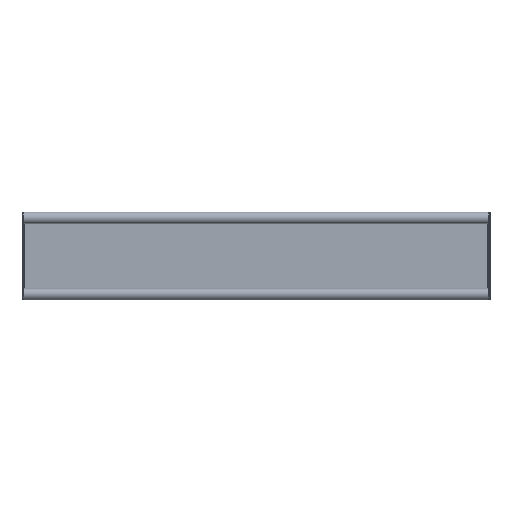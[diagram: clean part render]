
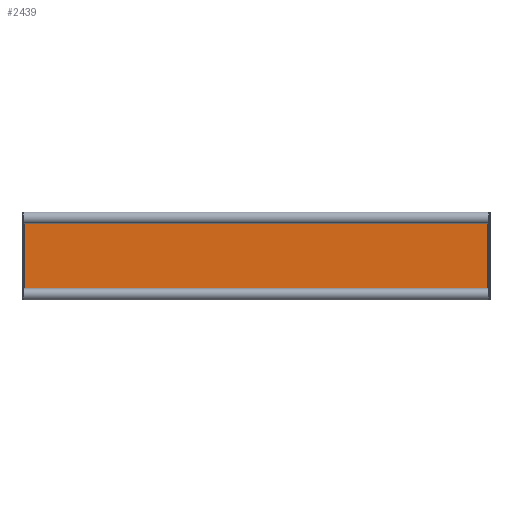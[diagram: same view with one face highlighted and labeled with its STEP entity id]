
A CAD part, front view. The second image highlights one B-rep face of the part: STEP entity #2439.
In plain terms, the highlighted planar face has unit normal (0, -1, 0).
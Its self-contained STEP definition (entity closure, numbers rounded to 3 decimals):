
#39 = EDGE_CURVE ( 'NONE', #6878, #5518, #8147, .T. ) ;
#139 = CARTESIAN_POINT ( 'NONE',  ( -399., -2., 71. ) ) ;
#283 = VERTEX_POINT ( 'NONE', #4285 ) ;
#846 = DIRECTION ( 'NONE',  ( 0., 0., 1. ) ) ;
#855 = VERTEX_POINT ( 'NONE', #9023 ) ;
#911 = ORIENTED_EDGE ( 'NONE', *, *, #1706, .F. ) ;
#993 = AXIS2_PLACEMENT_3D ( 'NONE', #8359, #7620, #3098 ) ;
#1052 = FACE_OUTER_BOUND ( 'NONE', #7715, .T. ) ;
#1397 = CARTESIAN_POINT ( 'NONE',  ( -399., -2., -71. ) ) ;
#1571 = CARTESIAN_POINT ( 'NONE',  ( 396., -2., -74. ) ) ;
#1704 = EDGE_CURVE ( 'NONE', #6878, #9325, #3245, .T. ) ;
#1706 = EDGE_CURVE ( 'NONE', #283, #855, #7721, .T. ) ;
#1805 = AXIS2_PLACEMENT_3D ( 'NONE', #3442, #7080, #2029 ) ;
#2029 = DIRECTION ( 'NONE',  ( 0., 0., 1. ) ) ;
#2207 = ORIENTED_EDGE ( 'NONE', *, *, #7883, .F. ) ;
#2216 = ORIENTED_EDGE ( 'NONE', *, *, #7757, .T. ) ;
#2439 = ADVANCED_FACE ( 'NONE', ( #1052 ), #6873, .F. ) ;
#2449 = DIRECTION ( 'NONE',  ( 1., 0., 0. ) ) ;
#2588 = VECTOR ( 'NONE', #6841, 1000. ) ;
#2776 = ORIENTED_EDGE ( 'NONE', *, *, #9316, .F. ) ;
#2829 = CARTESIAN_POINT ( 'NONE',  ( 396., -2., 70. ) ) ;
#2978 = CARTESIAN_POINT ( 'NONE',  ( 399., -2., 74. ) ) ;
#3098 = DIRECTION ( 'NONE',  ( 0., 0., 1. ) ) ;
#3120 = EDGE_CURVE ( 'NONE', #7272, #9325, #6781, .T. ) ;
#3210 = VECTOR ( 'NONE', #2449, 1000. ) ;
#3245 = LINE ( 'NONE', #1571, #6150 ) ;
#3442 = CARTESIAN_POINT ( 'NONE',  ( -399., -2., -74. ) ) ;
#3510 = CIRCLE ( 'NONE', #1805, 5. ) ;
#3555 = VERTEX_POINT ( 'NONE', #8644 ) ;
#3603 = DIRECTION ( 'NONE',  ( 0., 0., 1. ) ) ;
#3804 = CARTESIAN_POINT ( 'NONE',  ( 395., -2., 71. ) ) ;
#3880 = CARTESIAN_POINT ( 'NONE',  ( 395., -2., -71. ) ) ;
#4038 = AXIS2_PLACEMENT_3D ( 'NONE', #9676, #5909, #4947 ) ;
#4275 = AXIS2_PLACEMENT_3D ( 'NONE', #2978, #5103, #3603 ) ;
#4285 = CARTESIAN_POINT ( 'NONE',  ( -396., -2., 70. ) ) ;
#4898 = CARTESIAN_POINT ( 'NONE',  ( -395., -2., -71. ) ) ;
#4947 = DIRECTION ( 'NONE',  ( 0., 0., 1. ) ) ;
#5103 = DIRECTION ( 'NONE',  ( 0., -1., 0. ) ) ;
#5424 = CARTESIAN_POINT ( 'NONE',  ( -399., -2., 74. ) ) ;
#5518 = VERTEX_POINT ( 'NONE', #3880 ) ;
#5909 = DIRECTION ( 'NONE',  ( 0., -1., 0. ) ) ;
#6150 = VECTOR ( 'NONE', #6920, 1000. ) ;
#6209 = ORIENTED_EDGE ( 'NONE', *, *, #8199, .F. ) ;
#6530 = DIRECTION ( 'NONE',  ( 0., 0., 1. ) ) ;
#6781 = CIRCLE ( 'NONE', #4275, 5. ) ;
#6824 = VECTOR ( 'NONE', #6530, 1000. ) ;
#6841 = DIRECTION ( 'NONE',  ( 1., 0., 0. ) ) ;
#6873 = PLANE ( 'NONE',  #993 ) ;
#6878 = VERTEX_POINT ( 'NONE', #8518 ) ;
#6920 = DIRECTION ( 'NONE',  ( 0., 0., 1. ) ) ;
#7080 = DIRECTION ( 'NONE',  ( 0., -1., 0. ) ) ;
#7272 = VERTEX_POINT ( 'NONE', #3804 ) ;
#7480 = LINE ( 'NONE', #1397, #2588 ) ;
#7620 = DIRECTION ( 'NONE',  ( 0., 1., 0. ) ) ;
#7715 = EDGE_LOOP ( 'NONE', ( #8701, #9609, #8811, #6209, #911, #2776, #2207, #2216 ) ) ;
#7718 = DIRECTION ( 'NONE',  ( 0., -1., 0. ) ) ;
#7721 = CIRCLE ( 'NONE', #8201, 5. ) ;
#7757 = EDGE_CURVE ( 'NONE', #8274, #5518, #7480, .T. ) ;
#7883 = EDGE_CURVE ( 'NONE', #8274, #3555, #3510, .T. ) ;
#7909 = LINE ( 'NONE', #9494, #6824 ) ;
#8147 = CIRCLE ( 'NONE', #4038, 5. ) ;
#8199 = EDGE_CURVE ( 'NONE', #855, #7272, #9135, .T. ) ;
#8201 = AXIS2_PLACEMENT_3D ( 'NONE', #5424, #7718, #846 ) ;
#8274 = VERTEX_POINT ( 'NONE', #4898 ) ;
#8359 = CARTESIAN_POINT ( 'NONE',  ( -399., -2., -74. ) ) ;
#8518 = CARTESIAN_POINT ( 'NONE',  ( 396., -2., -70. ) ) ;
#8644 = CARTESIAN_POINT ( 'NONE',  ( -396., -2., -70. ) ) ;
#8701 = ORIENTED_EDGE ( 'NONE', *, *, #39, .F. ) ;
#8811 = ORIENTED_EDGE ( 'NONE', *, *, #3120, .F. ) ;
#9023 = CARTESIAN_POINT ( 'NONE',  ( -395., -2., 71. ) ) ;
#9135 = LINE ( 'NONE', #139, #3210 ) ;
#9316 = EDGE_CURVE ( 'NONE', #3555, #283, #7909, .T. ) ;
#9325 = VERTEX_POINT ( 'NONE', #2829 ) ;
#9494 = CARTESIAN_POINT ( 'NONE',  ( -396., -2., -74. ) ) ;
#9609 = ORIENTED_EDGE ( 'NONE', *, *, #1704, .T. ) ;
#9676 = CARTESIAN_POINT ( 'NONE',  ( 399., -2., -74. ) ) ;
